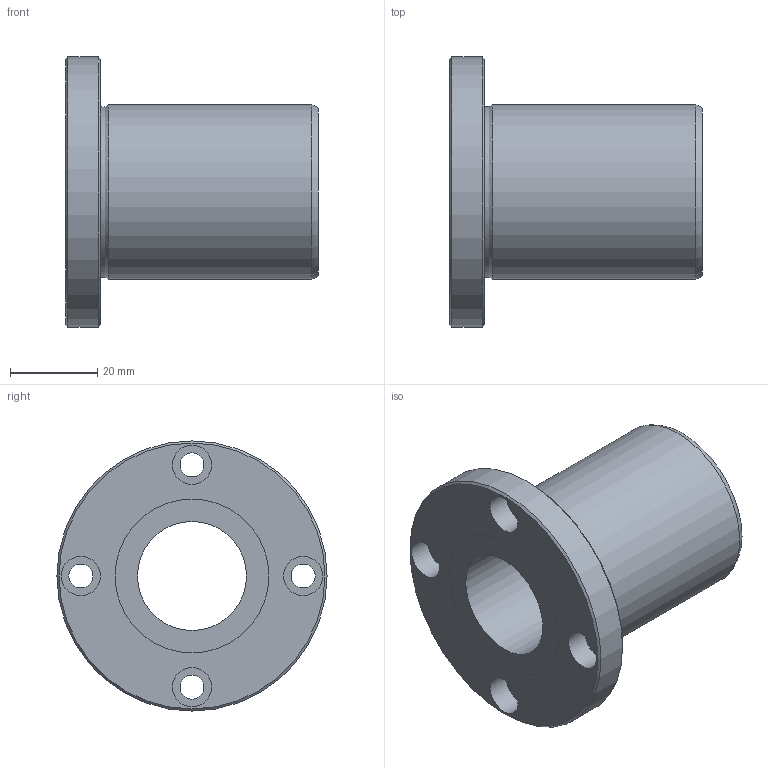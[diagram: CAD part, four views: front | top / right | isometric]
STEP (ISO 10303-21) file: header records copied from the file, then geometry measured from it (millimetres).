
FILE_DESCRIPTION((''),'2;1');
FILE_NAME('D:\製品 (図面)\カタログ用3D\リニアベアリング関連\STEP形式\LF\LF25.stp','2010-06-03T09:13:58',('Tsuchiya'),(''),'Autodesk Inventor 10','Autodesk Inventor 10','');
FILE_SCHEMA(('AUTOMOTIVE_DESIGN { 1 0 10303 214 1 1 1 1 }'));
Length unit declared in the file: millimetre
Products named in the file (1): LF25
Bounding box: 58 x 62 x 62 mm (x, y, z)
Volume: 56617.6 mm3; surface area: 17934.4 mm2
Topology: 1 solids, 1 shells, 26 faces, 47 edges, 30 vertices
Faces by surface type: cylinder 13, plane 9, cone 2, torus 1, bspline 1
Full cylindrical faces by diameter (mm): 5.5 x4, 9 x4, 25 x1, 35.3 x2, 40 x1, 62 x1
Entity records: 665 total; most frequent: CARTESIAN_POINT 149, DIRECTION 112, ORIENTED_EDGE 60, EDGE_LOOP 60, AXIS2_PLACEMENT_3D 56, FACE_BOUND 34, VERTEX_POINT 30, CIRCLE 30
